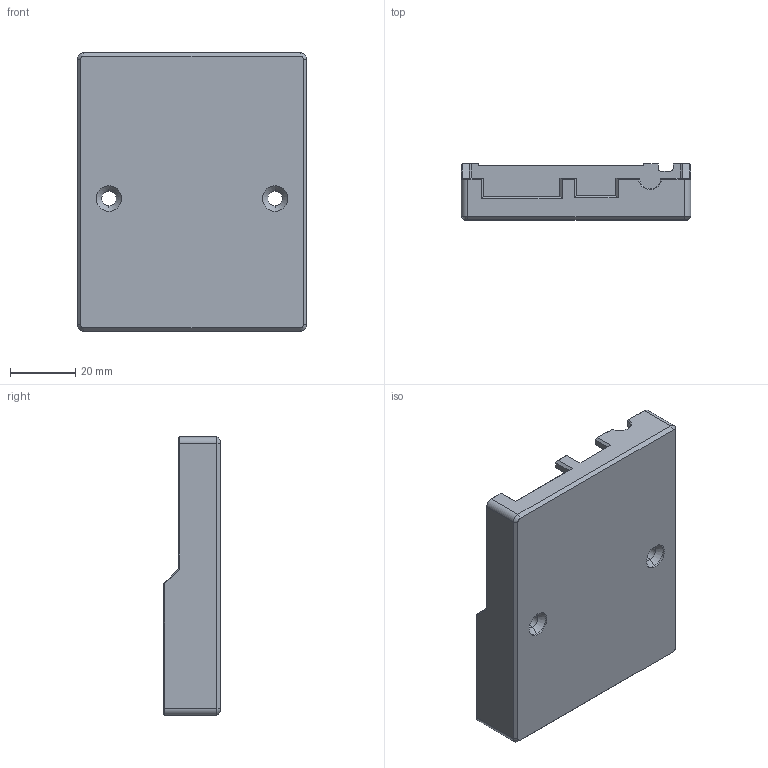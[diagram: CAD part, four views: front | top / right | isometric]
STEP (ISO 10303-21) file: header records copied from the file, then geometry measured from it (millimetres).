
FILE_DESCRIPTION (( 'STEP AP214' ), '1' );
FILE_NAME ('Box_Lower.STEP', '2026-11-09T13:51:38', ( 'WIN7' ), ( '' ), 'SwSTEP 2.0', 'SolidWorks 2016', '' );
FILE_SCHEMA (( 'AUTOMOTIVE_DESIGN' ));
Length unit declared in the file: millimetre
Products named in the file (1): Box_Lower
Bounding box: 70.4 x 17.3 x 85.4 mm (x, y, z)
Volume: 25195.2 mm3; surface area: 19767.9 mm2
Topology: 1 solids, 1 shells, 111 faces, 284 edges, 176 vertices
Faces by surface type: plane 67, cylinder 27, cone 17
Entity records: 3351 total; most frequent: CARTESIAN_POINT 584, DIRECTION 571, ORIENTED_EDGE 568, EDGE_CURVE 284, LINE 213, VECTOR 213, AXIS2_PLACEMENT_3D 179, VERTEX_POINT 176
